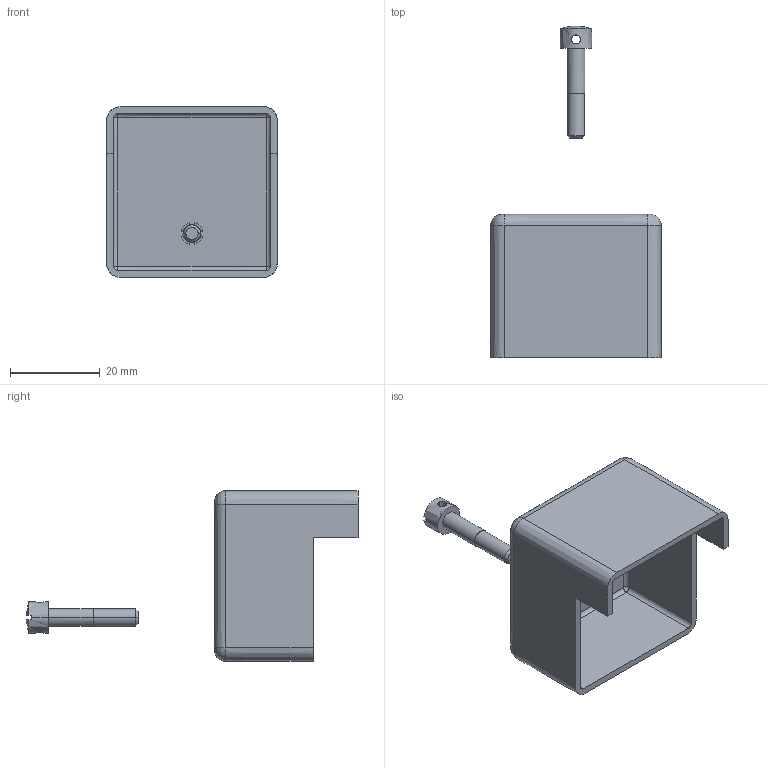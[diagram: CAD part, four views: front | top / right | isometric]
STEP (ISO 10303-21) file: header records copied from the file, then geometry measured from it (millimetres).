
FILE_DESCRIPTION(/* description */ (''),/* implementation_level */ '2;1');
FILE_NAME(/* name */ 'COPRIM~1',/* time_stamp */ '2015-11-24T10:17:26+01:00',/* author */ (''),/* organization */ (''),/* preprocessor_version */ 'ST-DEVELOPER v15',/* originating_system */ '',/* authorisation */ '');
FILE_SCHEMA (('AUTOMOTIVE_DESIGN'));
Length unit declared in the file: millimetre
Products named in the file (1): Document
Bounding box: 38 x 73.99 x 38 mm (x, y, z)
Volume: 7506.3 mm3; surface area: 10297.1 mm2
Topology: 2 solids, 2 shells, 68 faces, 168 edges, 106 vertices
Faces by surface type: bspline 48, plane 20
Entity records: 3091 total; most frequent: CARTESIAN_POINT 2064, ORIENTED_EDGE 336, EDGE_CURVE 168, VERTEX_POINT 115, B_SPLINE_CURVE_WITH_KNOTS 104, EDGE_LOOP 74, ADVANCED_FACE 68, FACE_OUTER_BOUND 68
